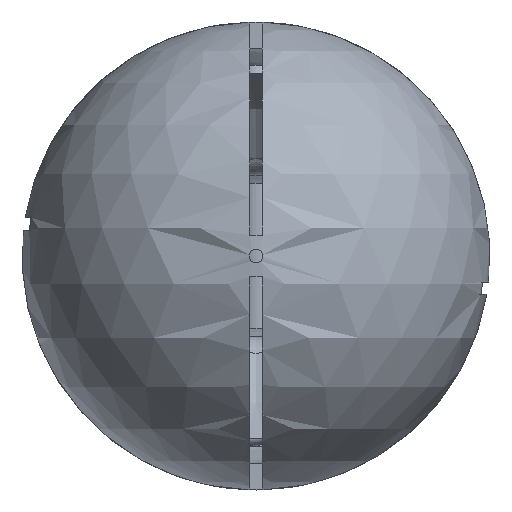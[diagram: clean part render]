
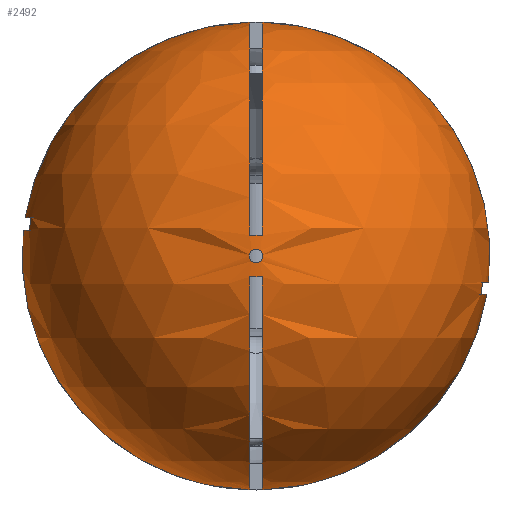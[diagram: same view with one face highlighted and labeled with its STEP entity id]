
A CAD part, left-side view. The second image highlights one B-rep face of the part: STEP entity #2492.
In plain terms, the highlighted spherical face has radius 22.5 mm.
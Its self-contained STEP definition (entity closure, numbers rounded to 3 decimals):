
#2189=CARTESIAN_POINT('',(-5.,21.794,2.5));
#2190=VERTEX_POINT('',#2189);
#2191=CARTESIAN_POINT('',(0.0,22.361,2.5));
#2192=VERTEX_POINT('',#2191);
#2193=CARTESIAN_POINT('',(0.0,0.0,2.5));
#2194=DIRECTION('',(0.0,0.0,-1.0));
#2195=DIRECTION('',(0.0,-1.0,0.0));
#2196=AXIS2_PLACEMENT_3D('',#2193,#2194,#2195);
#2197=CIRCLE('',#2196,22.361);
#2198=EDGE_CURVE('',#2190,#2192,#2197,.T.);
#2263=CARTESIAN_POINT('',(-5.,21.623,3.7));
#2264=VERTEX_POINT('',#2263);
#2265=CARTESIAN_POINT('',(-5.,0.0,0.0));
#2266=DIRECTION('',(-1.0,0.0,0.0));
#2267=DIRECTION('',(0.0,0.0,-1.0));
#2268=AXIS2_PLACEMENT_3D('',#2265,#2266,#2267);
#2269=CIRCLE('',#2268,21.937);
#2270=EDGE_CURVE('',#2264,#2190,#2269,.T.);
#2296=CARTESIAN_POINT('',(0.0,22.194,3.7));
#2297=VERTEX_POINT('',#2296);
#2298=CARTESIAN_POINT('',(0.0,0.0,3.7));
#2299=DIRECTION('',(0.0,0.0,1.0));
#2300=DIRECTION('',(0.0,1.0,0.0));
#2301=AXIS2_PLACEMENT_3D('',#2298,#2299,#2300);
#2302=CIRCLE('',#2301,22.194);
#2303=EDGE_CURVE('',#2297,#2264,#2302,.T.);
#2356=CARTESIAN_POINT('',(0.0,0.0,0.0));
#2357=DIRECTION('',(0.0,0.0,1.0));
#2358=DIRECTION('',(1.0,0.0,0.0));
#2359=AXIS2_PLACEMENT_3D('',#2356,#2357,#2358);
#2360=SPHERICAL_SURFACE('',#2359,22.5);
#2361=ORIENTED_EDGE('',*,*,#2303,.T.);
#2362=ORIENTED_EDGE('',*,*,#2270,.T.);
#2363=ORIENTED_EDGE('',*,*,#2198,.T.);
#2364=CARTESIAN_POINT('',(0.,0.6,-22.492));
#2365=VERTEX_POINT('',#2364);
#2366=CARTESIAN_POINT('',(0.0,0.0,0.0));
#2367=DIRECTION('',(-1.0,0.0,0.0));
#2368=DIRECTION('',(0.0,-1.0,0.0));
#2369=AXIS2_PLACEMENT_3D('',#2366,#2367,#2368);
#2370=CIRCLE('',#2369,22.5);
#2371=EDGE_CURVE('',#2192,#2365,#2370,.T.);
#2372=ORIENTED_EDGE('',*,*,#2371,.T.);
#2373=CARTESIAN_POINT('',(-22.403,0.6,-2.0));
#2374=VERTEX_POINT('',#2373);
#2375=CARTESIAN_POINT('',(0.0,0.6,0.));
#2376=DIRECTION('',(0.0,1.0,0.0));
#2377=DIRECTION('',(0.0,0.0,-1.0));
#2378=AXIS2_PLACEMENT_3D('',#2375,#2376,#2377);
#2379=CIRCLE('',#2378,22.492);
#2380=EDGE_CURVE('',#2365,#2374,#2379,.T.);
#2381=ORIENTED_EDGE('',*,*,#2380,.T.);
#2382=CARTESIAN_POINT('',(-22.403,-0.6,-2.0));
#2383=VERTEX_POINT('',#2382);
#2384=CARTESIAN_POINT('',(0.0,0.0,-2.0));
#2385=DIRECTION('',(0.0,0.0,1.0));
#2386=DIRECTION('',(0.0,1.0,0.0));
#2387=AXIS2_PLACEMENT_3D('',#2384,#2385,#2386);
#2388=CIRCLE('',#2387,22.411);
#2389=EDGE_CURVE('',#2374,#2383,#2388,.T.);
#2390=ORIENTED_EDGE('',*,*,#2389,.T.);
#2391=CARTESIAN_POINT('',(0.,-0.6,-22.492));
#2392=VERTEX_POINT('',#2391);
#2393=CARTESIAN_POINT('',(0.0,-0.6,0.));
#2394=DIRECTION('',(0.0,-1.0,0.0));
#2395=DIRECTION('',(0.0,0.0,1.0));
#2396=AXIS2_PLACEMENT_3D('',#2393,#2394,#2395);
#2397=CIRCLE('',#2396,22.492);
#2398=EDGE_CURVE('',#2383,#2392,#2397,.T.);
#2399=ORIENTED_EDGE('',*,*,#2398,.T.);
#2400=CARTESIAN_POINT('',(0.0,-22.194,-3.7));
#2401=VERTEX_POINT('',#2400);
#2402=CARTESIAN_POINT('',(0.0,0.0,0.0));
#2403=DIRECTION('',(-1.0,0.0,0.0));
#2404=DIRECTION('',(0.0,-1.0,0.0));
#2405=AXIS2_PLACEMENT_3D('',#2402,#2403,#2404);
#2406=CIRCLE('',#2405,22.5);
#2407=EDGE_CURVE('',#2392,#2401,#2406,.T.);
#2408=ORIENTED_EDGE('',*,*,#2407,.T.);
#2409=CARTESIAN_POINT('',(-5.,-21.623,-3.7));
#2410=VERTEX_POINT('',#2409);
#2411=CARTESIAN_POINT('',(0.0,0.0,-3.7));
#2412=DIRECTION('',(0.0,0.0,-1.0));
#2413=DIRECTION('',(0.0,-1.0,0.0));
#2414=AXIS2_PLACEMENT_3D('',#2411,#2412,#2413);
#2415=CIRCLE('',#2414,22.194);
#2416=EDGE_CURVE('',#2401,#2410,#2415,.T.);
#2417=ORIENTED_EDGE('',*,*,#2416,.T.);
#2418=CARTESIAN_POINT('',(-5.,-21.794,-2.5));
#2419=VERTEX_POINT('',#2418);
#2420=CARTESIAN_POINT('',(-5.,0.0,0.0));
#2421=DIRECTION('',(-1.0,0.0,0.0));
#2422=DIRECTION('',(0.0,0.0,-1.0));
#2423=AXIS2_PLACEMENT_3D('',#2420,#2421,#2422);
#2424=CIRCLE('',#2423,21.937);
#2425=EDGE_CURVE('',#2410,#2419,#2424,.T.);
#2426=ORIENTED_EDGE('',*,*,#2425,.T.);
#2427=CARTESIAN_POINT('',(0.0,-22.361,-2.5));
#2428=VERTEX_POINT('',#2427);
#2429=CARTESIAN_POINT('',(0.0,0.0,-2.5));
#2430=DIRECTION('',(0.0,0.0,1.0));
#2431=DIRECTION('',(0.0,1.0,0.0));
#2432=AXIS2_PLACEMENT_3D('',#2429,#2430,#2431);
#2433=CIRCLE('',#2432,22.361);
#2434=EDGE_CURVE('',#2419,#2428,#2433,.T.);
#2435=ORIENTED_EDGE('',*,*,#2434,.T.);
#2436=CARTESIAN_POINT('',(0.,-0.6,22.492));
#2437=VERTEX_POINT('',#2436);
#2438=CARTESIAN_POINT('',(0.0,0.0,0.0));
#2439=DIRECTION('',(-1.0,0.0,0.0));
#2440=DIRECTION('',(0.0,-1.0,0.0));
#2441=AXIS2_PLACEMENT_3D('',#2438,#2439,#2440);
#2442=CIRCLE('',#2441,22.5);
#2443=EDGE_CURVE('',#2428,#2437,#2442,.T.);
#2444=ORIENTED_EDGE('',*,*,#2443,.T.);
#2445=CARTESIAN_POINT('',(-22.403,-0.6,2.0));
#2446=VERTEX_POINT('',#2445);
#2447=CARTESIAN_POINT('',(0.0,-0.6,0.));
#2448=DIRECTION('',(0.0,-1.0,0.0));
#2449=DIRECTION('',(0.0,0.0,1.0));
#2450=AXIS2_PLACEMENT_3D('',#2447,#2448,#2449);
#2451=CIRCLE('',#2450,22.492);
#2452=EDGE_CURVE('',#2437,#2446,#2451,.T.);
#2453=ORIENTED_EDGE('',*,*,#2452,.T.);
#2454=CARTESIAN_POINT('',(-22.403,0.6,2.0));
#2455=VERTEX_POINT('',#2454);
#2456=CARTESIAN_POINT('',(0.0,0.0,2.0));
#2457=DIRECTION('',(0.0,0.0,-1.0));
#2458=DIRECTION('',(0.0,-1.0,0.0));
#2459=AXIS2_PLACEMENT_3D('',#2456,#2457,#2458);
#2460=CIRCLE('',#2459,22.411);
#2461=EDGE_CURVE('',#2446,#2455,#2460,.T.);
#2462=ORIENTED_EDGE('',*,*,#2461,.T.);
#2463=CARTESIAN_POINT('',(0.,0.6,22.492));
#2464=VERTEX_POINT('',#2463);
#2465=CARTESIAN_POINT('',(0.0,0.6,0.));
#2466=DIRECTION('',(0.0,1.0,0.0));
#2467=DIRECTION('',(0.0,0.0,-1.0));
#2468=AXIS2_PLACEMENT_3D('',#2465,#2466,#2467);
#2469=CIRCLE('',#2468,22.492);
#2470=EDGE_CURVE('',#2455,#2464,#2469,.T.);
#2471=ORIENTED_EDGE('',*,*,#2470,.T.);
#2472=CARTESIAN_POINT('',(0.0,0.0,0.0));
#2473=DIRECTION('',(-1.0,0.0,0.0));
#2474=DIRECTION('',(0.0,-1.0,0.0));
#2475=AXIS2_PLACEMENT_3D('',#2472,#2473,#2474);
#2476=CIRCLE('',#2475,22.5);
#2477=EDGE_CURVE('',#2464,#2297,#2476,.T.);
#2478=ORIENTED_EDGE('',*,*,#2477,.T.);
#2479=EDGE_LOOP('',(#2361,#2362,#2363,#2372,#2381,#2390,#2399,#2408,#2417,#2426,#2435,#2444,#2453,#2462,#2471,#2478));
#2480=FACE_OUTER_BOUND('',#2479,.T.);
#2481=CARTESIAN_POINT('',(-22.491,0.65,0.));
#2482=VERTEX_POINT('',#2481);
#2483=CARTESIAN_POINT('',(-22.491,0.0,0.0));
#2484=DIRECTION('',(1.0,0.0,0.0));
#2485=DIRECTION('',(0.0,-1.0,0.0));
#2486=AXIS2_PLACEMENT_3D('',#2483,#2484,#2485);
#2487=CIRCLE('',#2486,0.65);
#2488=EDGE_CURVE('',#2482,#2482,#2487,.T.);
#2489=ORIENTED_EDGE('',*,*,#2488,.T.);
#2490=EDGE_LOOP('',(#2489));
#2491=FACE_BOUND('',#2490,.T.);
#2492=ADVANCED_FACE('',(#2480,#2491),#2360,.T.);
